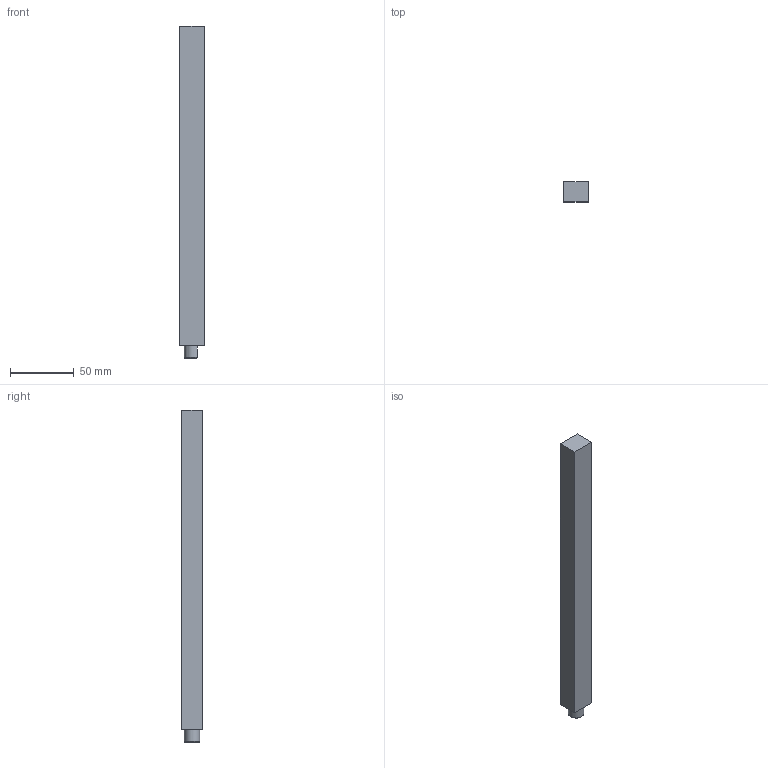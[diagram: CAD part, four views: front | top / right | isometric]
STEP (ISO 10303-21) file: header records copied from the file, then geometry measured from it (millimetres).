
FILE_DESCRIPTION (( 'STEP AP214' ), '1' );
FILE_NAME ('KKPHF Pin S_-_12-250.step', '2024-02-07T08:54:03', ( '' ), ( '' ), 'SwSTEP 2.0', 'SolidWorks 2020', '' );
FILE_SCHEMA (( 'AUTOMOTIVE_DESIGN' ));
Length unit declared in the file: millimetre
Products named in the file (1): KKPHF  Pin S_-_12-250
Bounding box: 19 x 16 x 259.9 mm (x, y, z)
Volume: 76695.4 mm3; surface area: 18686.8 mm2
Topology: 1 solids, 1 shells, 15 faces, 31 edges, 19 vertices
Faces by surface type: plane 9, cylinder 3, cone 2, torus 1
Full cylindrical faces by diameter (mm): 5 x1
Entity records: 425 total; most frequent: CARTESIAN_POINT 78, DIRECTION 62, ORIENTED_EDGE 56, EDGE_CURVE 28, AXIS2_PLACEMENT_3D 22, VERTEX_POINT 18, VECTOR 18, EDGE_LOOP 18
